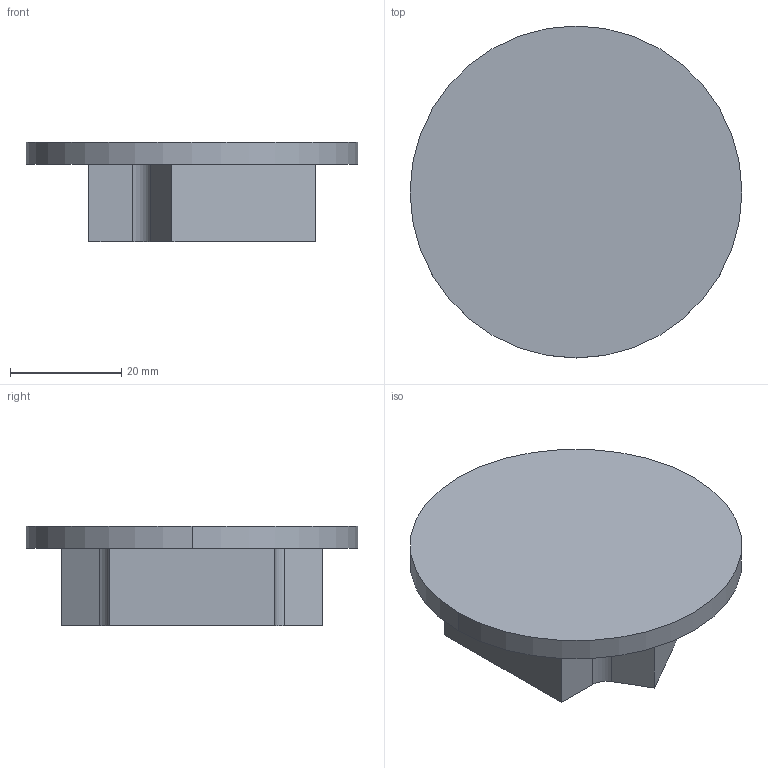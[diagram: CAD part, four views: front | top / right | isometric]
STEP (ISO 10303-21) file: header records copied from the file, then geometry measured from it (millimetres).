
FILE_DESCRIPTION (( 'STEP AP214' ), '1' );
FILE_NAME ('clef-assemblage.STEP', '2018-03-29T09:42:07', ( '' ), ( '' ), 'SwSTEP 2.0', 'SolidWorks 2014', '' );
FILE_SCHEMA (( 'AUTOMOTIVE_DESIGN' ));
Length unit declared in the file: millimetre
Products named in the file (1): clef-assemblage
Bounding box: 59.8 x 59.8 x 18 mm (x, y, z)
Volume: 29160 mm3; surface area: 8443.8 mm2
Topology: 1 solids, 1 shells, 17 faces, 42 edges, 28 vertices
Faces by surface type: plane 12, cylinder 5
Entity records: 540 total; most frequent: DIRECTION 88, CARTESIAN_POINT 88, ORIENTED_EDGE 84, EDGE_CURVE 42, VECTOR 32, LINE 32, VERTEX_POINT 28, AXIS2_PLACEMENT_3D 28
